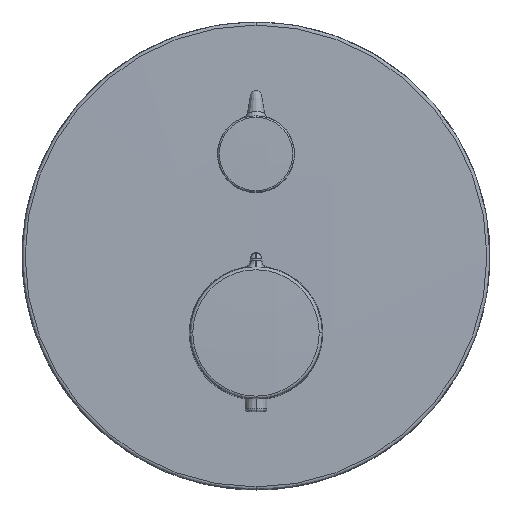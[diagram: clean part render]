
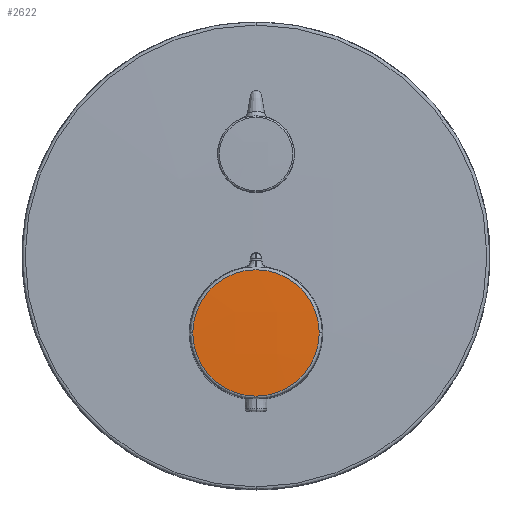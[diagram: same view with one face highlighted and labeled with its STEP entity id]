
A CAD part, top view. The second image highlights one B-rep face of the part: STEP entity #2622.
In plain terms, the highlighted free-form (B-spline) face has degree [3, 3] with [4, 4] control points.
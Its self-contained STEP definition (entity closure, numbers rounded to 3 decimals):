
#179 = CARTESIAN_POINT ( 'NONE',  ( -23.224, -51.395, 47.099 ) ) ;
#218 = CARTESIAN_POINT ( 'NONE',  ( -7.697, -51.404, 47.478 ) ) ;
#395 = DIRECTION ( 'NONE',  ( -1., 0., 0. ) ) ;
#497 = ORIENTED_EDGE ( 'NONE', *, *, #1089, .F. ) ;
#630 = VERTEX_POINT ( 'NONE', #3918 ) ;
#664 = CARTESIAN_POINT ( 'NONE',  ( 0., -28., 47.393 ) ) ;
#784 = CARTESIAN_POINT ( 'NONE',  ( 7.835, -4.694, 47.479 ) ) ;
#830 = CARTESIAN_POINT ( 'NONE',  ( 7.835, -51.404, 47.477 ) ) ;
#918 = CARTESIAN_POINT ( 'NONE',  ( -23.224, -35.833, 47.482 ) ) ;
#963 = CARTESIAN_POINT ( 'NONE',  ( -7.697, -4.694, 47.48 ) ) ;
#1089 = EDGE_CURVE ( 'NONE', #3710, #630, #2158, .T. ) ;
#1164 = CARTESIAN_POINT ( 'NONE',  ( 7.835, -20.263, 47.86 ) ) ;
#1432 = CARTESIAN_POINT ( 'NONE',  ( 23.362, -35.833, 47.478 ) ) ;
#1595 = EDGE_CURVE ( 'NONE', #630, #3710, #3442, .T. ) ;
#1704 = CARTESIAN_POINT ( 'NONE',  ( -22.947, -28., 47.393 ) ) ;
#2134 = CARTESIAN_POINT ( 'NONE',  ( 7.835, -35.836, 47.859 ) ) ;
#2158 = CIRCLE ( 'NONE', #2377, 22.947 ) ;
#2189 = EDGE_LOOP ( 'NONE', ( #497, #3384 ) ) ;
#2371 = AXIS2_PLACEMENT_3D ( 'NONE', #2842, #4192, #2478 ) ;
#2377 = AXIS2_PLACEMENT_3D ( 'NONE', #664, #2810, #395 ) ;
#2478 = DIRECTION ( 'NONE',  ( -1., 0., 0. ) ) ;
#2479 = CARTESIAN_POINT ( 'NONE',  ( 23.362, -20.266, 47.479 ) ) ;
#2527 = CARTESIAN_POINT ( 'NONE',  ( 23.362, -51.395, 47.096 ) ) ;
#2622 = ADVANCED_FACE ( 'NONE', ( #3819 ), #3209, .T. ) ;
#2810 = DIRECTION ( 'NONE',  ( 0., 0., -1. ) ) ;
#2842 = CARTESIAN_POINT ( 'NONE',  ( 0., -28., 47.393 ) ) ;
#2865 = CARTESIAN_POINT ( 'NONE',  ( 23.362, -4.704, 47.099 ) ) ;
#2908 = CARTESIAN_POINT ( 'NONE',  ( -23.224, -4.704, 47.102 ) ) ;
#3209 =( BOUNDED_SURFACE ( )  B_SPLINE_SURFACE ( 3, 3, ( 
 ( #2865, #2479, #1432, #2527 ),
 ( #784, #1164, #2134, #830 ),
 ( #963, #3299, #3676, #218 ),
 ( #2908, #3278, #918, #179 ) ),
 .UNSPECIFIED., .F., .F., .F. ) 
 B_SPLINE_SURFACE_WITH_KNOTS ( ( 4, 4 ),
 ( 4, 4 ),
 ( 0., 1. ),
 ( 0., 1. ),
 .UNSPECIFIED. ) 
 GEOMETRIC_REPRESENTATION_ITEM ( )  RATIONAL_B_SPLINE_SURFACE ( (
 ( 1., 1., 1., 1.),
 ( 1., 1., 1., 1.),
 ( 1., 1., 1., 1.),
 ( 1., 1., 1., 1.) ) ) 
 REPRESENTATION_ITEM ( '' )  SURFACE ( )  );
#3278 = CARTESIAN_POINT ( 'NONE',  ( -23.224, -20.266, 47.482 ) ) ;
#3299 = CARTESIAN_POINT ( 'NONE',  ( -7.697, -20.263, 47.861 ) ) ;
#3384 = ORIENTED_EDGE ( 'NONE', *, *, #1595, .F. ) ;
#3442 = CIRCLE ( 'NONE', #2371, 22.947 ) ;
#3676 = CARTESIAN_POINT ( 'NONE',  ( -7.697, -35.836, 47.86 ) ) ;
#3710 = VERTEX_POINT ( 'NONE', #1704 ) ;
#3819 = FACE_OUTER_BOUND ( 'NONE', #2189, .T. ) ;
#3918 = CARTESIAN_POINT ( 'NONE',  ( 22.947, -28., 47.393 ) ) ;
#4192 = DIRECTION ( 'NONE',  ( 0., 0., -1. ) ) ;
